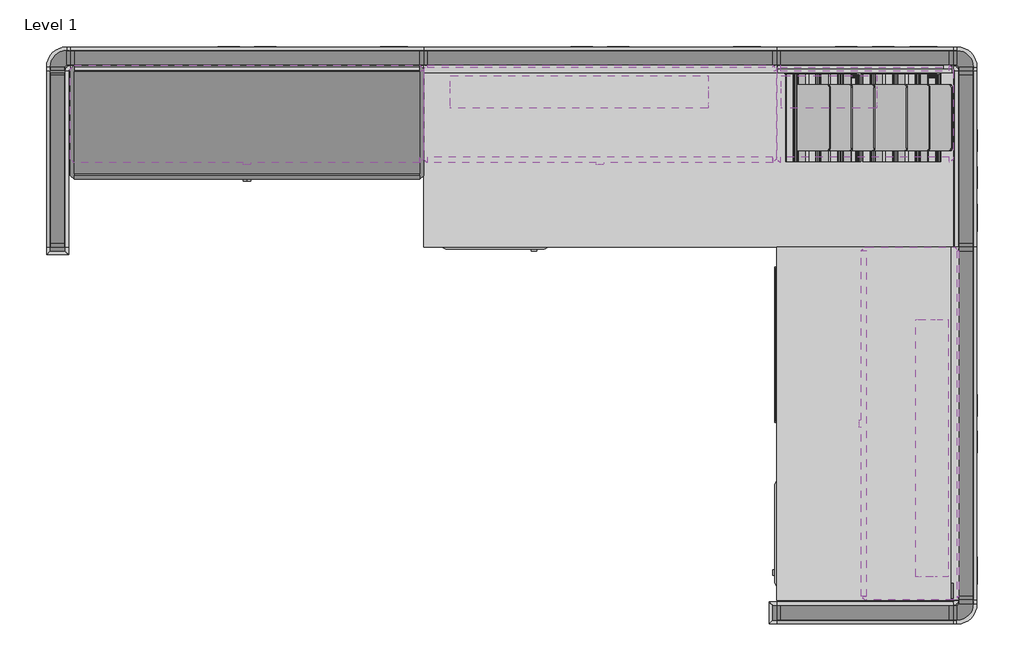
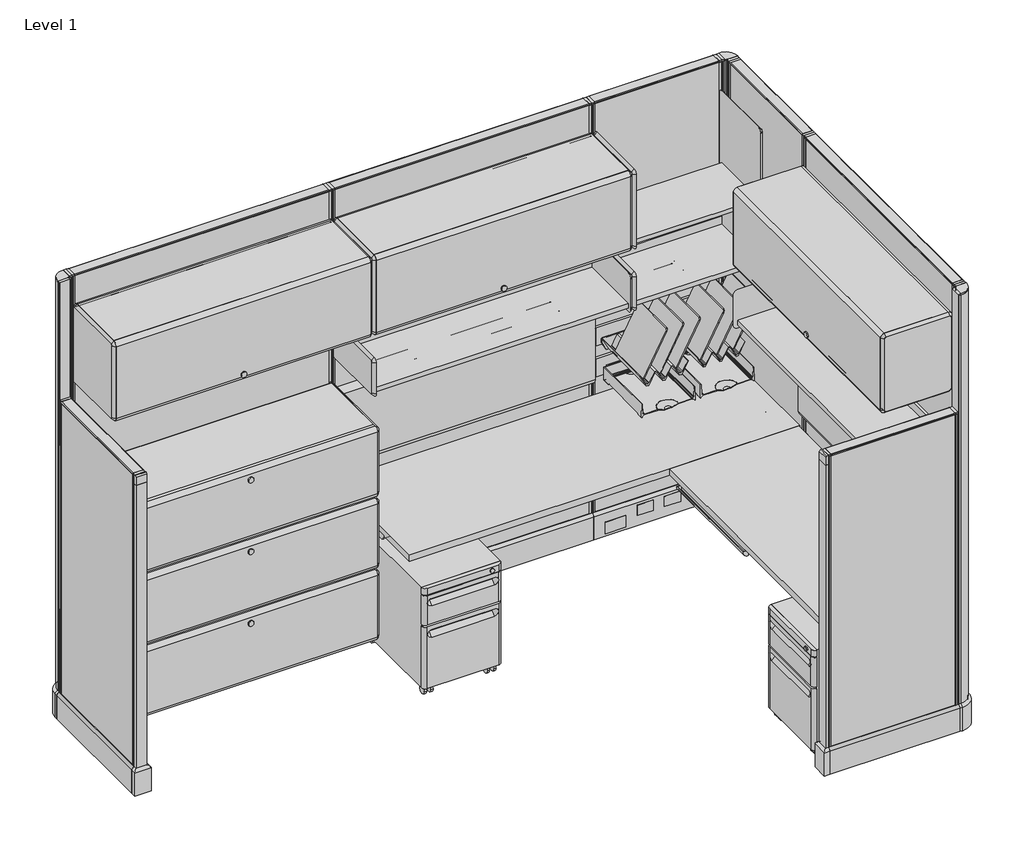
# One storey, incomplete: 37 furniture elements, 3 light fixtures.
"""IFC4 building model written with IfcOpenShell, lengths in millimetres."""

from ifc_helpers import new_model, si_unit, origin, place, context, project, spatial, transform, mapped, element, save
from components import furniture_d54c757f, furniture_04455b23, furniture_a2665887, furniture_6a59721d, furniture_cb78dd66, furniture_083a197f, furniture_d9179111, furniture_33cd207f, furniture_f3dbc57d, furniture_64285d1c, furniture_2520e590, furniture_ae017f2a, furniture_e7bd9e13, furniture_debc09a2, furniture_0882e81d, furniture_9b7a8d55, furniture_31a6571c, furniture_84c54a78, furniture_4e2c0d57, furniture_0fa552dd, furniture_d6d106ba, light_fixture_d29e1486, light_fixture_6c250f8a

model = new_model("IFC4")

# Units and contexts
model_context = context("Model", 3, world=origin())
ifc_project = project(units=[si_unit("LENGTHUNIT", "METRE", prefix="MILLI")], contexts=[model_context])

# Site, building, storey
site = spatial("IfcSite", under=ifc_project)
building = spatial("IfcBuilding", under=site)
storey = spatial("IfcBuildingStorey", under=building, Name="Level 1", Elevation=0.0)

# Furniture
placement = place(None, origin())
furniture_shape = furniture_d54c757f(model_context)
element("IfcFurniture", 1, ObjectType="HermanMiller_ThrivePortfolio_Y5010_PencilDrawer : 2\"H x 16\"D x 21\"W", at=placement, inside=storey, context=model_context, shape_type="MappedRepresentation", body=[
    mapped(furniture_shape, transform((2638.29292, -1030.53642, 0.0), x_axis=(0.0, -1.0, 0.0), y_axis=(1.0, 0.0, 0.0), z_axis=(0.0, 0.0, 1.0))),
])
furniture_2_shape = furniture_04455b23(model_context)
element("IfcFurniture", 2, ObjectType="HermanMiller_ThrivePortfolio_Y7218_DiagonalTray : 8 1/2\"H x 12\"D x 13\"W", at=placement, inside=storey, context=model_context, shape_type="MappedRepresentation", body=[
    mapped(furniture_2_shape, transform((2849.216817, -244.50802, 0.0), x_axis=(1.0, 0.0, 0.0), y_axis=(0.0, 1.0, 0.0), z_axis=(0.0, 0.0, 1.0))),
])
element("IfcFurniture", 3, ObjectType="HermanMiller_ThrivePortfolio_Y7218_DiagonalTray : 8 1/2\"H x 12\"D x 13\"W", at=placement, inside=storey, context=model_context, shape_type="MappedRepresentation", body=[
    mapped(furniture_2_shape, transform((2582.605717, -244.50802, 0.0), x_axis=(1.0, 0.0, 0.0), y_axis=(0.0, 1.0, 0.0), z_axis=(0.0, 0.0, 1.0))),
])
furniture_3_shape = furniture_a2665887(model_context)
element("IfcFurniture", 4, ObjectType="HermanMiller_ThrivePortfolio_Y7216_PaperTray : 3\"H x 12\"D x 10\"W", at=placement, inside=storey, context=model_context, shape_type="MappedRepresentation", body=[
    mapped(furniture_3_shape, transform((2879.08746, -244.50802, 0.0), x_axis=(1.0, 0.0, 0.0), y_axis=(0.0, 1.0, 0.0), z_axis=(0.0, 0.0, 1.0))),
])
element("IfcFurniture", 5, ObjectType="HermanMiller_ThrivePortfolio_Y7216_PaperTray : 3\"H x 12\"D x 10\"W", at=placement, inside=storey, context=model_context, shape_type="MappedRepresentation", body=[
    mapped(furniture_3_shape, transform((2603.20028, -244.50802, 0.0), x_axis=(1.0, 0.0, 0.0), y_axis=(0.0, 1.0, 0.0), z_axis=(0.0, 0.0, 1.0))),
])
furniture_4_shape = furniture_6a59721d(model_context)
element("IfcFurniture", 6, ObjectType="HermanMiller_ActionOffice_A3610_ToolBar : 4\"H x 24\"W", at=placement, inside=storey, context=model_context, shape_type="MappedRepresentation", body=[
    mapped(furniture_4_shape, transform((2743.2, -77.7874996, 0.0), x_axis=(1.0, 0.0, 0.0), y_axis=(0.0, 1.0, 0.0), z_axis=(0.0, 0.0, 1.0))),
])
furniture_5_shape = furniture_cb78dd66(model_context)
element("IfcFurniture", 7, ObjectType="HermanMiller_ActionOffice_A3410_B-StyleTackboard : 16\"H x 48\"W", at=placement, inside=storey, context=model_context, shape_type="MappedRepresentation", body=[
    mapped(furniture_5_shape, transform((1828.8, -77.7875, 0.0), x_axis=(1.0, 0.0, 0.0), y_axis=(0.0, 1.0, 0.0), z_axis=(0.0, 0.0, 1.0))),
])
element("IfcFurniture", 8, ObjectType="HermanMiller_ActionOffice_A3410_B-StyleTackboard : 16\"H x 48\"W", at=placement, inside=storey, context=model_context, shape_type="MappedRepresentation", body=[
    mapped(furniture_5_shape, transform((3054.35, -1303.3375, 0.0), x_axis=(0.0, -1.0, 0.0), y_axis=(1.0, 0.0, 0.0), z_axis=(0.0, 0.0, 1.0))),
])
furniture_6_shape = furniture_083a197f(model_context)
element("IfcFurniture", 9, ObjectType="HermanMiller_ActionOffice_A2310_Sq-EdgeRectangularWorkSurface : 24\"D x 48\"W", at=placement, inside=storey, context=model_context, shape_type="MappedRepresentation", body=[
    mapped(furniture_6_shape, transform((2752.725, -1303.3375, 0.0), x_axis=(0.0, -1.0, 0.0), y_axis=(1.0, 0.0, 0.0), z_axis=(0.0, 0.0, 1.0))),
])
furniture_7_shape = furniture_d9179111(model_context)
element("IfcFurniture", 10, ObjectType="HermanMiller_ActionOffice_A3220_B-StyleStorageDisplay : Shelf 13\"D x 48\"W", at=placement, inside=storey, context=model_context, shape_type="MappedRepresentation", body=[
    mapped(furniture_7_shape, transform((1952.7420045, -246.0625, 0.0), x_axis=(1.0, 0.0, 0.0), y_axis=(0.0, 1.0, 0.0), z_axis=(0.0, 0.0, 1.0))),
])
element("IfcFurniture", 11, ObjectType="HermanMiller_ActionOffice_A3220_B-StyleStorageDisplay : Shelf 13\"D x 48\"W", at=placement, inside=storey, context=model_context, shape_type="MappedRepresentation", body=[
    mapped(furniture_7_shape, transform((2886.075, -1427.2795045, 0.0), x_axis=(0.0, -1.0, 0.0), y_axis=(1.0, 0.0, 0.0), z_axis=(0.0, 0.0, 1.0))),
])
furniture_8_shape = furniture_33cd207f(model_context)
element("IfcFurniture", 12, ObjectType="HermanMiller_ActionOffice_A3352_B-StyleFlipperDoorUnit : 15 1/2\"H x 13\"D x 48\"W", at=placement, inside=storey, context=model_context, shape_type="MappedRepresentation", body=[
    mapped(furniture_8_shape, transform((1828.8, -246.0625, 0.0), x_axis=(1.0, 0.0, 0.0), y_axis=(0.0, 1.0, 0.0), z_axis=(0.0, 0.0, 1.0))),
])
element("IfcFurniture", 13, ObjectType="HermanMiller_ActionOffice_A3352_B-StyleFlipperDoorUnit : 15 1/2\"H x 13\"D x 48\"W", at=placement, inside=storey, context=model_context, shape_type="MappedRepresentation", body=[
    mapped(furniture_8_shape, transform((2886.075, -1303.3375, 0.0), x_axis=(0.0, -1.0, 0.0), y_axis=(1.0, 0.0, 0.0), z_axis=(0.0, 0.0, 1.0))),
])
element("IfcFurniture", 14, ObjectType="HermanMiller_ActionOffice_A3352_B-StyleFlipperDoorUnit : 15 1/2\"H x 13\"D x 48\"W", at=placement, inside=storey, context=model_context, shape_type="MappedRepresentation", body=[
    mapped(furniture_8_shape, transform((609.6, -246.0625, 0.0), x_axis=(1.0, 0.0, 0.0), y_axis=(0.0, 1.0, 0.0), z_axis=(0.0, 0.0, 1.0))),
])
furniture_9_shape = furniture_f3dbc57d(model_context)
element("IfcFurniture", 15, ObjectType="HermanMiller_ActionOffice_A2310_Sq-EdgeRectangularWorkSurface : 24\"D x 72\"W", at=placement, inside=storey, context=model_context, shape_type="MappedRepresentation", body=[
    mapped(furniture_9_shape, transform((2133.6, -379.4125, 0.0), x_axis=(1.0, 0.0, 0.0), y_axis=(0.0, 1.0, 0.0), z_axis=(0.0, 0.0, 1.0))),
])
furniture_10_shape = furniture_64285d1c(model_context)
element("IfcFurniture", 16, ObjectType="HermanMiller_ActionOffice_A3121_B-StyleSuspendedLateralFile : 16\"D x 48\"W", at=placement, inside=storey, context=model_context, shape_type="MappedRepresentation", body=[
    mapped(furniture_10_shape, transform((609.6, -274.6375, 0.0), x_axis=(1.0, 0.0, 0.0), y_axis=(0.0, 1.0, 0.0), z_axis=(0.0, 0.0, 1.0))),
])
furniture_11_shape = furniture_2520e590(model_context)
element("IfcFurniture", 17, ObjectType="HermanMiller_ActionOffice_A3610_ToolBar : 4\"H x 24\"W", at=placement, inside=storey, context=model_context, shape_type="MappedRepresentation", body=[
    mapped(furniture_11_shape, transform((2743.2, -77.7874996, 0.0), x_axis=(1.0, 0.0, 0.0), y_axis=(0.0, 1.0, 0.0), z_axis=(0.0, 0.0, 1.0))),
])
furniture_12_shape = furniture_ae017f2a(model_context)
element("IfcFurniture", 18, ObjectType="HermanMiller_ActionOffice_A3220_B-StyleStorageDisplay : Shelf 13\"D x 24\"W", at=placement, inside=storey, context=model_context, shape_type="MappedRepresentation", body=[
    mapped(furniture_12_shape, transform((2867.1420045, -246.0625, 0.0), x_axis=(1.0, 0.0, 0.0), y_axis=(0.0, 1.0, 0.0), z_axis=(0.0, 0.0, 1.0))),
])
furniture_13_shape = furniture_e7bd9e13(model_context)
element("IfcFurniture", 19, ObjectType="HermanMiller_ActionOffice_A3210_B-StyleShelf : 15-1/2H 13D 24W", at=placement, inside=storey, context=model_context, shape_type="MappedRepresentation", body=[
    mapped(furniture_13_shape, transform((2867.1420045, -246.0625, 0.0), x_axis=(1.0, 0.0, 0.0), y_axis=(0.0, 1.0, 0.0), z_axis=(0.0, 0.0, 1.0))),
])
furniture_14_shape = furniture_debc09a2(model_context)
element("IfcFurniture", 20, ObjectType="HermanMiller_ActionOffice_A3121_B-StyleSuspendedLateralFile : 16\"D x 48\"W", at=placement, inside=storey, context=model_context, shape_type="MappedRepresentation", body=[
    mapped(furniture_14_shape, transform((609.6, -274.6375, 0.0), x_axis=(1.0, 0.0, 0.0), y_axis=(0.0, 1.0, 0.0), z_axis=(0.0, 0.0, 1.0))),
])
element("IfcFurniture", 21, ObjectType="HermanMiller_ActionOffice_A3121_B-StyleSuspendedLateralFile : 16\"D x 48\"W", at=placement, inside=storey, context=model_context, shape_type="MappedRepresentation", body=[
    mapped(furniture_14_shape, transform((609.6, -274.6375, -355.6), x_axis=(1.0, 0.0, 0.0), y_axis=(0.0, 1.0, 0.0), z_axis=(0.0, 0.0, 1.0))),
])
furniture_15_shape = furniture_0882e81d(model_context)
element("IfcFurniture", 22, ObjectType="HermanMiller_ActionOffice_A1110_Hard-SurfacedPanelStandardBase : 62\"H x 24\"W-N", at=placement, inside=storey, context=model_context, shape_type="MappedRepresentation", body=[
    mapped(furniture_15_shape, transform((2743.2, -1957.3868657, 0.0), x_axis=(-1.0, 0.0, 0.0), y_axis=(0.0, -1.0, 0.0), z_axis=(0.0, 0.0, 1.0))),
])
element("IfcFurniture", 23, ObjectType="HermanMiller_ActionOffice_A1110_Hard-SurfacedPanelStandardBase : 62\"H x 24\"W-N", at=placement, inside=storey, context=model_context, shape_type="MappedRepresentation", body=[
    mapped(furniture_15_shape, transform((-44.45, -388.8330666, 0.0), x_axis=(0.0, 1.0, 0.0), y_axis=(-1.0, 0.0, 0.0), z_axis=(0.0, 0.0, 1.0))),
])
furniture_16_shape = furniture_9b7a8d55(model_context)
element("IfcFurniture", 24, ObjectType="HermanMiller_ActionOffice_A1110_Hard-SurfacedPanelStandardBase : 85\"H x 48\"W-G", at=placement, inside=storey, context=model_context, shape_type="MappedRepresentation", body=[
    mapped(furniture_16_shape, transform((609.6, -39.6875, 0.0), x_axis=(1.0, 0.0, 0.0), y_axis=(0.0, 1.0, 0.0), z_axis=(0.0, 0.0, 1.0))),
])
element("IfcFurniture", 25, ObjectType="HermanMiller_ActionOffice_A1110_Hard-SurfacedPanelStandardBase : 85\"H x 48\"W-G", at=placement, inside=storey, context=model_context, shape_type="MappedRepresentation", body=[
    mapped(furniture_16_shape, transform((3092.45, -1303.3375, 0.0), x_axis=(0.0, -1.0, 0.0), y_axis=(1.0, 0.0, 0.0), z_axis=(0.0, 0.0, 1.0))),
])
element("IfcFurniture", 26, ObjectType="HermanMiller_ActionOffice_A1110_Hard-SurfacedPanelStandardBase : 85\"H x 48\"W-G", at=placement, inside=storey, context=model_context, shape_type="MappedRepresentation", body=[
    mapped(furniture_16_shape, transform((1828.8, -39.6875, 0.0), x_axis=(1.0, 0.0, 0.0), y_axis=(0.0, 1.0, 0.0), z_axis=(0.0, 0.0, 1.0))),
])
furniture_17_shape = furniture_31a6571c(model_context)
element("IfcFurniture", 27, ObjectType="HermanMiller_ActionOffice_A1110_Hard-SurfacedPanelStandardBase : 85\"H x 24\"W-G", at=placement, inside=storey, context=model_context, shape_type="MappedRepresentation", body=[
    mapped(furniture_17_shape, transform((2743.2, -39.6875, 0.0), x_axis=(1.0, 0.0, 0.0), y_axis=(0.0, 1.0, 0.0), z_axis=(0.0, 0.0, 1.0))),
])
element("IfcFurniture", 28, ObjectType="HermanMiller_ActionOffice_A1110_Hard-SurfacedPanelStandardBase : 85\"H x 24\"W-G", at=placement, inside=storey, context=model_context, shape_type="MappedRepresentation", body=[
    mapped(furniture_17_shape, transform((3092.45, -388.9375, 0.0), x_axis=(0.0, -1.0, 0.0), y_axis=(1.0, 0.0, 0.0), z_axis=(0.0, 0.0, 1.0))),
])
furniture_18_shape = furniture_84c54a78(model_context)
element("IfcFurniture", 29, ObjectType="HermanMiller_QuadrantFiling_G5111_MobilePedestal : 21-1/2\"H x 20\"D x 15\"W BF", at=placement, inside=storey, context=model_context, shape_type="MappedRepresentation", body=[
    mapped(furniture_18_shape, transform((1466.61632, -436.651403, 0.0), x_axis=(1.0, 0.0, 0.0), y_axis=(0.0, 1.0, 0.0), z_axis=(0.0, 0.0, 1.0))),
])
element("IfcFurniture", 30, ObjectType="HermanMiller_QuadrantFiling_G5111_MobilePedestal : 21-1/2\"H x 20\"D x 15\"W BF", at=placement, inside=storey, context=model_context, shape_type="MappedRepresentation", body=[
    mapped(furniture_18_shape, transform((2695.717237, -1683.26816, 0.0), x_axis=(0.0, -1.0, 0.0), y_axis=(1.0, 0.0, 0.0), z_axis=(0.0, 0.0, 1.0))),
])
furniture_19_shape = furniture_4e2c0d57(model_context)
element("IfcFurniture", 31, ObjectType="HermanMiller_ActionOffice_AO259_AO272_FinishedEndChangeOfHeight : 32\"H Panel/Conn", at=placement, inside=storey, context=model_context, shape_type="MappedRepresentation", body=[
    mapped(furniture_19_shape, transform((2981.1290033, -1801.6165078, 0.0), x_axis=(-1.0, 0.0, 0.0), y_axis=(0.0, -1.0, 0.0), z_axis=(0.0, 0.0, 1.0))),
])
element("IfcFurniture", 32, ObjectType="HermanMiller_ActionOffice_AO259_AO272_FinishedEndChangeOfHeight : 32\"H Panel/Conn", at=placement, inside=storey, context=model_context, shape_type="MappedRepresentation", body=[
    mapped(furniture_19_shape, transform((-124.0209967, -150.9040633, 0.0), x_axis=(0.0, -1.0, 0.0), y_axis=(1.0, 0.0, 0.0), z_axis=(0.0, 0.0, 1.0))),
])
furniture_20_shape = furniture_0fa552dd(model_context)
element("IfcFurniture", 33, ObjectType="HermanMiller_ActionOffice_A1271_FinishedEndStandardBase : 62\"H", at=placement, inside=storey, context=model_context, shape_type="MappedRepresentation", body=[
    mapped(furniture_20_shape, transform((4423.2560512, -4406.1256533, 0.0), x_axis=(-1.0, 0.0, 0.0), y_axis=(0.0, -1.0, 0.0), z_axis=(0.0, 0.0, 1.0))),
])
element("IfcFurniture", 34, ObjectType="HermanMiller_ActionOffice_A1271_FinishedEndStandardBase : 62\"H", at=placement, inside=storey, context=model_context, shape_type="MappedRepresentation", body=[
    mapped(furniture_20_shape, transform((2404.2887877, 1291.2229846, 0.0), x_axis=(0.0, -1.0, 0.0), y_axis=(1.0, 0.0, 0.0), z_axis=(0.0, 0.0, 1.0))),
])
furniture_21_shape = furniture_d6d106ba(model_context)
element("IfcFurniture", 35, ObjectType="HermanMiller_ActionOffice_A1220_90ConnectorStandardBase : 85\"H 2-Way-Hard", at=placement, inside=storey, context=model_context, shape_type="MappedRepresentation", body=[
    mapped(furniture_21_shape, transform((-29.9360586, -45.9330666, 0.0), x_axis=(0.0, 1.0, 0.0), y_axis=(-1.0, 0.0, 0.0), z_axis=(0.0, 0.0, 1.0))),
])
element("IfcFurniture", 36, ObjectType="HermanMiller_ActionOffice_A1220_90ConnectorStandardBase : 85\"H 2-Way-Hard", at=placement, inside=storey, context=model_context, shape_type="MappedRepresentation", body=[
    mapped(furniture_21_shape, transform((3077.9360586, -1951.0375, 0.0), x_axis=(0.0, -1.0, 0.0), y_axis=(1.0, 0.0, 0.0), z_axis=(0.0, 0.0, 1.0))),
])
element("IfcFurniture", 37, ObjectType="HermanMiller_ActionOffice_A1220_90ConnectorStandardBase : 85\"H 2-Way-Hard", at=placement, inside=storey, context=model_context, shape_type="MappedRepresentation", body=[
    mapped(furniture_21_shape, transform((3086.1, -54.2014414, 0.0), x_axis=(1.0, 0.0, 0.0), y_axis=(0.0, 1.0, 0.0), z_axis=(0.0, 0.0, 1.0))),
])

# Light fixtures
light_fixture_shape = light_fixture_d29e1486(model_context)
element("IfcLightFixture", 38, ObjectType="HermanMiller_SupplementalProducts_G6136_UtilityTaskLight : AO Etho Canvas 42W", at=placement, inside=storey, context=model_context, shape_type="MappedRepresentation", body=[
    mapped(light_fixture_shape, transform((1756.918, -157.1625, 0.0), x_axis=(1.0, 0.0, 0.0), y_axis=(0.0, 1.0, 0.0), z_axis=(0.0, 0.0, 1.0))),
])
element("IfcLightFixture", 39, ObjectType="HermanMiller_SupplementalProducts_G6136_UtilityTaskLight : AO Etho Canvas 42W", at=placement, inside=storey, context=model_context, shape_type="MappedRepresentation", body=[
    mapped(light_fixture_shape, transform((2974.975, -1387.99824, 0.0), x_axis=(0.0, -1.0, 0.0), y_axis=(1.0, 0.0, 0.0), z_axis=(0.0, 0.0, 1.0))),
])
light_fixture_2_shape = light_fixture_6c250f8a(model_context)
element("IfcLightFixture", 40, ObjectType="HermanMiller_SupplementalProducts_G6136_UtilityTaskLight : AO Etho Canvas 24W", at=placement, inside=storey, context=model_context, shape_type="MappedRepresentation", body=[
    mapped(light_fixture_2_shape, transform((2619.629, -157.1625, 0.0), x_axis=(1.0, 0.0, 0.0), y_axis=(0.0, 1.0, 0.0), z_axis=(0.0, 0.0, 1.0))),
])

save(model, "model.ifc")
